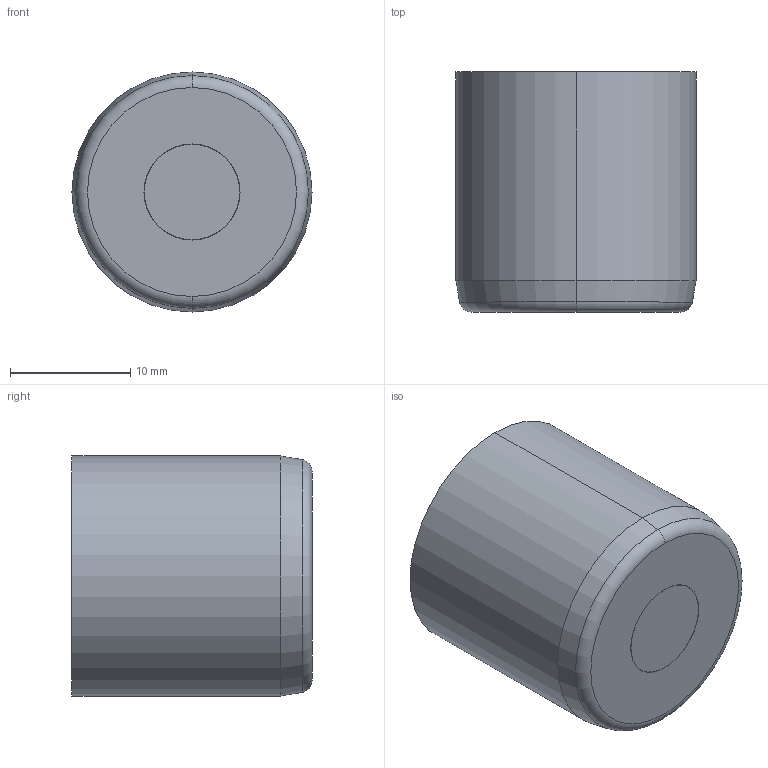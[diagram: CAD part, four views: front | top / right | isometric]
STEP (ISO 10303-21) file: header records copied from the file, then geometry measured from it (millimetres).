
FILE_DESCRIPTION (( 'STEP AP214' ), '1' );
FILE_NAME ('FA200700.STEP', '2013-06-28T08:11:52', ( '' ), ( '' ), 'SwSTEP 2.0', 'SolidWorks 2011', '' );
FILE_SCHEMA (( 'AUTOMOTIVE_DESIGN' ));
Length unit declared in the file: millimetre
Products named in the file (6): FA 168700-2 comprimido; 9FA 200700; FA 168700-1; FA200700; IA 1007SF; FA 168700-3
Assembly tree (5 placements, depth 2):
  FA200700
    IA 1007SF
    FA 168700-2 comprimido
    FA 168700-3
    FA 168700-1
    9FA 200700
Bounding box: 20 x 20 x 20 mm (x, y, z)
Volume: 6012.6 mm3; surface area: 3274.9 mm2
Topology: 5 solids, 5 shells, 114 faces, 259 edges, 159 vertices
Faces by surface type: plane 37, cone 34, cylinder 31, torus 10, bspline 2
Entity records: 4733 total; most frequent: CARTESIAN_POINT 1864, DIRECTION 581, ORIENTED_EDGE 514, EDGE_CURVE 257, AXIS2_PLACEMENT_3D 236, VERTEX_POINT 159, EDGE_LOOP 128, CIRCLE 116
